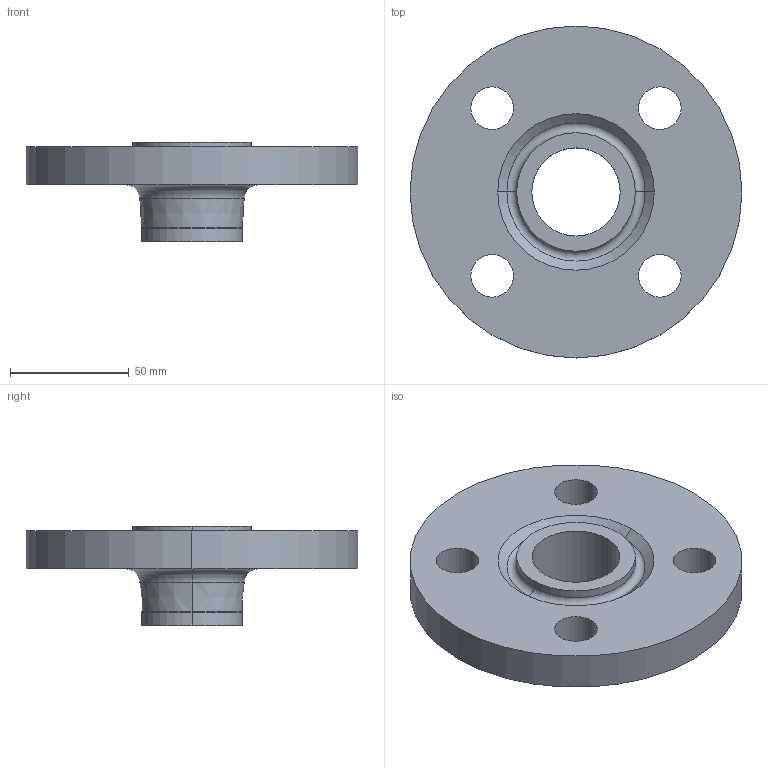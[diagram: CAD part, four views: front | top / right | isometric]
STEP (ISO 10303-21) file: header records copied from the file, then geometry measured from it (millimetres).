
FILE_DESCRIPTION (( 'STEP AP214' ), '1' );
FILE_NAME ('PN40 DN32 Type 11 - Type H Face.STEP', '2018-12-29T23:58:46', ( '' ), ( '' ), 'SwSTEP 2.0', 'SolidWorks 2019', '' );
FILE_SCHEMA (( 'AUTOMOTIVE_DESIGN' ));
Length unit declared in the file: millimetre
Products named in the file (1): PN40 DN32 Type 11 - Type H Face
Bounding box: 140 x 140 x 42 mm (x, y, z)
Volume: 220818.4 mm3; surface area: 46007.6 mm2
Topology: 1 solids, 1 shells, 30 faces, 68 edges, 42 vertices
Faces by surface type: cylinder 16, torus 6, cone 4, plane 4
Entity records: 914 total; most frequent: DIRECTION 178, CARTESIAN_POINT 141, ORIENTED_EDGE 136, AXIS2_PLACEMENT_3D 79, EDGE_CURVE 68, CIRCLE 48, EDGE_LOOP 42, VERTEX_POINT 42
